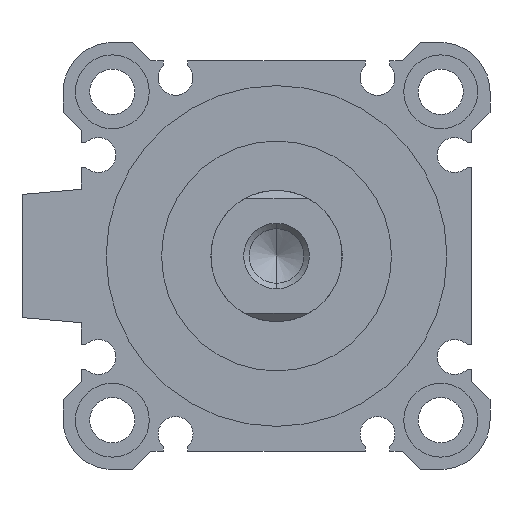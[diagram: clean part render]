
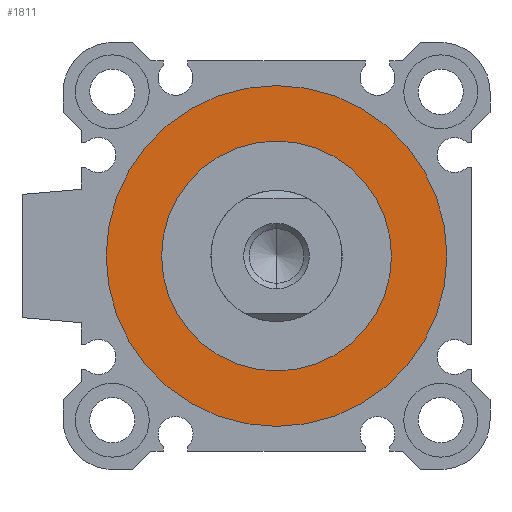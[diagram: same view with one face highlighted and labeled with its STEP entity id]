
A CAD part, left-side view. The second image highlights one B-rep face of the part: STEP entity #1811.
In plain terms, the highlighted planar face has unit normal (-1, 0, 0).
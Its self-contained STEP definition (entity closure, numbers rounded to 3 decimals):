
#317 = FACE_BOUND ( 'NONE', #2547, .T. ) ;
#582 = CARTESIAN_POINT ( 'NONE',  ( 3.3, 0., 0. ) ) ;
#682 = AXIS2_PLACEMENT_3D ( 'NONE', #582, #2188, #3733 ) ;
#697 = ORIENTED_EDGE ( 'NONE', *, *, #3199, .F. ) ;
#753 = FACE_OUTER_BOUND ( 'NONE', #3008, .T. ) ;
#894 = AXIS2_PLACEMENT_3D ( 'NONE', #1513, #3496, #3420 ) ;
#1030 = CARTESIAN_POINT ( 'NONE',  ( 3.3, 0., -20.75 ) ) ;
#1048 = DIRECTION ( 'NONE',  ( 0., 1., 0. ) ) ;
#1140 = CARTESIAN_POINT ( 'NONE',  ( 3.3, 0., 0. ) ) ;
#1155 = DIRECTION ( 'NONE',  ( 0., 0., -1. ) ) ;
#1269 = VERTEX_POINT ( 'NONE', #4577 ) ;
#1488 = CARTESIAN_POINT ( 'NONE',  ( 3.3, 0., 0. ) ) ;
#1513 = CARTESIAN_POINT ( 'NONE',  ( 3.3, 0., 0. ) ) ;
#1811 = ADVANCED_FACE ( 'NONE', ( #753, #317 ), #2280, .F. ) ;
#1853 = VERTEX_POINT ( 'NONE', #3392 ) ;
#2014 = AXIS2_PLACEMENT_3D ( 'NONE', #4642, #2759, #1155 ) ;
#2057 = EDGE_CURVE ( 'NONE', #1853, #3498, #4038, .T. ) ;
#2171 = ORIENTED_EDGE ( 'NONE', *, *, #2565, .T. ) ;
#2188 = DIRECTION ( 'NONE',  ( 1., 0., 0. ) ) ;
#2280 = PLANE ( 'NONE',  #2673 ) ;
#2547 = EDGE_LOOP ( 'NONE', ( #2171, #3803 ) ) ;
#2565 = EDGE_CURVE ( 'NONE', #1269, #3611, #4467, .T. ) ;
#2673 = AXIS2_PLACEMENT_3D ( 'NONE', #1488, #3827, #1048 ) ;
#2718 = CIRCLE ( 'NONE', #682, 20.75 ) ;
#2759 = DIRECTION ( 'NONE',  ( 1., 0., 0. ) ) ;
#2994 = DIRECTION ( 'NONE',  ( 1., 0., 0. ) ) ;
#3008 = EDGE_LOOP ( 'NONE', ( #4422, #697 ) ) ;
#3096 = CIRCLE ( 'NONE', #894, 14. ) ;
#3199 = EDGE_CURVE ( 'NONE', #3498, #1853, #2718, .T. ) ;
#3392 = CARTESIAN_POINT ( 'NONE',  ( 3.3, 0., 20.75 ) ) ;
#3394 = CARTESIAN_POINT ( 'NONE',  ( 3.3, 0., -14. ) ) ;
#3420 = DIRECTION ( 'NONE',  ( 0., 0., -1. ) ) ;
#3479 = DIRECTION ( 'NONE',  ( 0., 0., -1. ) ) ;
#3496 = DIRECTION ( 'NONE',  ( 1., 0., 0. ) ) ;
#3498 = VERTEX_POINT ( 'NONE', #1030 ) ;
#3577 = EDGE_CURVE ( 'NONE', #3611, #1269, #3096, .T. ) ;
#3611 = VERTEX_POINT ( 'NONE', #3394 ) ;
#3733 = DIRECTION ( 'NONE',  ( 0., 0., -1. ) ) ;
#3803 = ORIENTED_EDGE ( 'NONE', *, *, #3577, .T. ) ;
#3827 = DIRECTION ( 'NONE',  ( 1., 0., 0. ) ) ;
#4038 = CIRCLE ( 'NONE', #2014, 20.75 ) ;
#4422 = ORIENTED_EDGE ( 'NONE', *, *, #2057, .F. ) ;
#4467 = CIRCLE ( 'NONE', #4877, 14. ) ;
#4577 = CARTESIAN_POINT ( 'NONE',  ( 3.3, 0., 14. ) ) ;
#4642 = CARTESIAN_POINT ( 'NONE',  ( 3.3, 0., 0. ) ) ;
#4877 = AXIS2_PLACEMENT_3D ( 'NONE', #1140, #2994, #3479 ) ;
